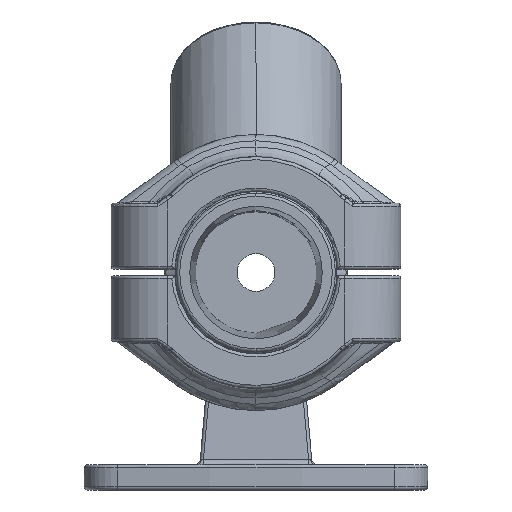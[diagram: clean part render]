
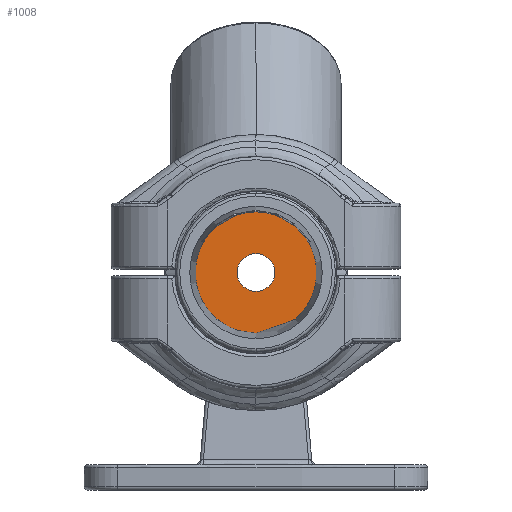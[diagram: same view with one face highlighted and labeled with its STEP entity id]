
A CAD part, left-side view. The second image highlights one B-rep face of the part: STEP entity #1008.
In plain terms, the highlighted planar face has unit normal (-1, 0, 0).
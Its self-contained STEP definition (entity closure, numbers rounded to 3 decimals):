
#802=PLANE('',#8341);
#889=FACE_BOUND('',#2182,.T.);
#890=FACE_BOUND('',#2183,.T.);
#1008=ADVANCED_FACE('',(#889,#890),#802,.F.);
#2182=EDGE_LOOP('',(#3712,#3713));
#2183=EDGE_LOOP('',(#3714,#3715));
#3712=ORIENTED_EDGE('',*,*,#6749,.F.);
#3713=ORIENTED_EDGE('',*,*,#6748,.F.);
#3714=ORIENTED_EDGE('',*,*,#6551,.T.);
#3715=ORIENTED_EDGE('',*,*,#6548,.T.);
#5822=VERTEX_POINT('',#11010);
#5823=VERTEX_POINT('',#11012);
#5953=VERTEX_POINT('',#13120);
#5956=VERTEX_POINT('',#13126);
#6548=EDGE_CURVE('',#5823,#5822,#7774,.T.);
#6551=EDGE_CURVE('',#5822,#5823,#7776,.T.);
#6748=EDGE_CURVE('',#5956,#5953,#7819,.T.);
#6749=EDGE_CURVE('',#5953,#5956,#7820,.T.);
#7774=CIRCLE('',#8231,3.);
#7776=CIRCLE('',#8234,3.);
#7819=CIRCLE('',#8338,9.628);
#7820=CIRCLE('',#8340,9.628);
#8231=AXIS2_PLACEMENT_3D('',#11011,#9042,#9043);
#8234=AXIS2_PLACEMENT_3D('',#11016,#9049,#9050);
#8338=AXIS2_PLACEMENT_3D('',#13127,#9330,#9331);
#8340=AXIS2_PLACEMENT_3D('',#13129,#9334,#9335);
#8341=AXIS2_PLACEMENT_3D('',#13130,#9336,#9337);
#9042=DIRECTION('',(1.,0.,0.));
#9043=DIRECTION('',(0.,0.,-1.));
#9049=DIRECTION('',(1.,0.,0.));
#9050=DIRECTION('',(0.,0.,-1.));
#9330=DIRECTION('',(1.,0.,0.));
#9331=DIRECTION('',(0.,0.,-1.));
#9334=DIRECTION('',(1.,0.,0.));
#9335=DIRECTION('',(0.,0.,-1.));
#9336=DIRECTION('',(1.,0.,0.));
#9337=DIRECTION('',(0.,0.,-1.));
#11010=CARTESIAN_POINT('',(71.35,0.,-3.));
#11011=CARTESIAN_POINT('',(71.35,0.,0.));
#11012=CARTESIAN_POINT('',(71.35,0.,3.));
#11016=CARTESIAN_POINT('',(71.35,0.,0.));
#13120=CARTESIAN_POINT('',(71.35,0.,-9.628));
#13126=CARTESIAN_POINT('',(71.35,0.,9.628));
#13127=CARTESIAN_POINT('',(71.35,0.,0.));
#13129=CARTESIAN_POINT('',(71.35,0.,0.));
#13130=CARTESIAN_POINT('',(71.35,0.,0.));
